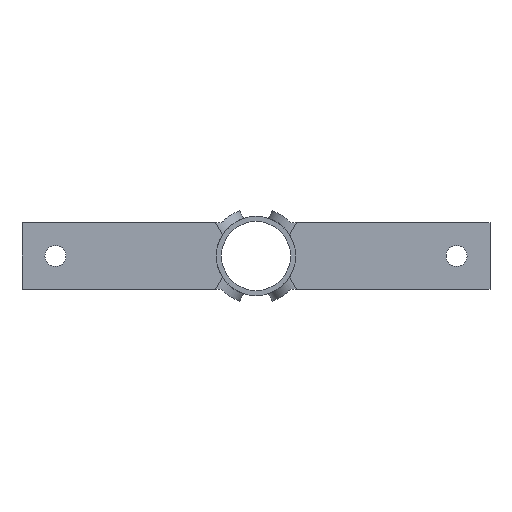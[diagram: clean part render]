
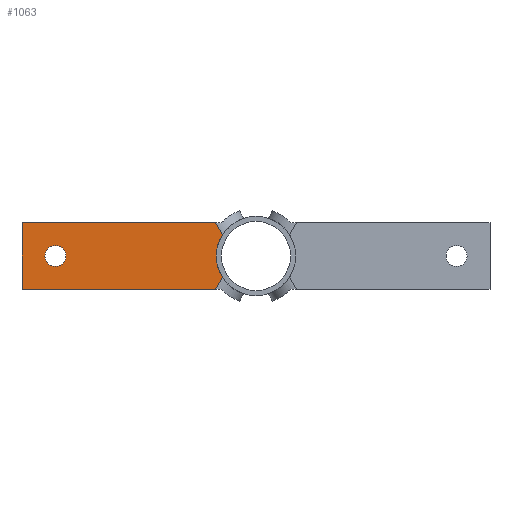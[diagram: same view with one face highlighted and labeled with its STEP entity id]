
A CAD part, front view. The second image highlights one B-rep face of the part: STEP entity #1063.
In plain terms, the highlighted planar face has unit normal (0, -1, 0).
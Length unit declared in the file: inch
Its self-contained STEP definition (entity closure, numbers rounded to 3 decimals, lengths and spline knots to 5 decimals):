
#45=FACE_BOUND('',#188,.T.);
#58=CIRCLE('',#1142,1.1875);
#59=CIRCLE('',#1143,1.1875);
#60=CIRCLE('',#1144,0.3125);
#98=PLANE('',#1141);
#135=FACE_OUTER_BOUND('',#187,.T.);
#187=EDGE_LOOP('',(#736,#737,#738,#739,#740,#741,#742));
#188=EDGE_LOOP('',(#743));
#258=LINE('',#1596,#343);
#265=LINE('',#1647,#350);
#266=LINE('',#1653,#351);
#272=LINE('',#1704,#357);
#279=LINE('',#1764,#364);
#343=VECTOR('',#1248,0.3937);
#350=VECTOR('',#1261,0.3937);
#351=VECTOR('',#1266,0.3937);
#357=VECTOR('',#1276,0.3937);
#364=VECTOR('',#1301,0.3937);
#439=VERTEX_POINT('',#1593);
#440=VERTEX_POINT('',#1595);
#445=VERTEX_POINT('',#1628);
#447=VERTEX_POINT('',#1650);
#448=VERTEX_POINT('',#1652);
#455=VERTEX_POINT('',#1702);
#463=VERTEX_POINT('',#1761);
#464=VERTEX_POINT('',#1765);
#542=EDGE_CURVE('',#440,#439,#258,.T.);
#551=EDGE_CURVE('',#445,#439,#265,.T.);
#553=EDGE_CURVE('',#447,#448,#266,.T.);
#562=EDGE_CURVE('',#447,#455,#272,.T.);
#573=EDGE_CURVE('',#463,#445,#58,.T.);
#574=EDGE_CURVE('',#448,#463,#59,.T.);
#575=EDGE_CURVE('',#455,#440,#279,.T.);
#576=EDGE_CURVE('',#464,#464,#60,.T.);
#736=ORIENTED_EDGE('',*,*,#551,.F.);
#737=ORIENTED_EDGE('',*,*,#573,.F.);
#738=ORIENTED_EDGE('',*,*,#574,.F.);
#739=ORIENTED_EDGE('',*,*,#553,.F.);
#740=ORIENTED_EDGE('',*,*,#562,.T.);
#741=ORIENTED_EDGE('',*,*,#575,.T.);
#742=ORIENTED_EDGE('',*,*,#542,.T.);
#743=ORIENTED_EDGE('',*,*,#576,.T.);
#1063=ADVANCED_FACE('',(#135,#45),#98,.F.);
#1141=AXIS2_PLACEMENT_3D('',#1760,#1295,#1296);
#1142=AXIS2_PLACEMENT_3D('',#1762,#1297,#1298);
#1143=AXIS2_PLACEMENT_3D('',#1763,#1299,#1300);
#1144=AXIS2_PLACEMENT_3D('',#1766,#1302,#1303);
#1248=DIRECTION('',(1.,0.,0.));
#1261=DIRECTION('',(-0.5,0.,-0.866));
#1266=DIRECTION('',(0.5,0.,-0.866));
#1276=DIRECTION('',(-1.,0.,0.));
#1295=DIRECTION('center_axis',(0.,1.,0.));
#1296=DIRECTION('ref_axis',(0.,0.,1.));
#1297=DIRECTION('center_axis',(0.,-1.,0.));
#1298=DIRECTION('ref_axis',(1.,0.,0.));
#1299=DIRECTION('center_axis',(0.,-1.,0.));
#1300=DIRECTION('ref_axis',(1.,0.,0.));
#1301=DIRECTION('',(0.,0.,-1.));
#1302=DIRECTION('center_axis',(0.,1.,0.));
#1303=DIRECTION('ref_axis',(-1.,0.,0.));
#1593=CARTESIAN_POINT('',(-1.21556,4.,-1.));
#1595=CARTESIAN_POINT('',(-7.,4.,-1.));
#1596=CARTESIAN_POINT('',(-7.,4.,-1.));
#1628=CARTESIAN_POINT('',(-1.00417,4.,-0.63387));
#1647=CARTESIAN_POINT('',(-0.63782,4.,0.00068));
#1650=CARTESIAN_POINT('',(-1.21556,4.,1.));
#1652=CARTESIAN_POINT('',(-1.00417,4.,0.63387));
#1653=CARTESIAN_POINT('',(-0.96388,4.,0.56408));
#1702=CARTESIAN_POINT('',(-7.,4.,1.));
#1704=CARTESIAN_POINT('',(7.,4.,1.));
#1760=CARTESIAN_POINT('Origin',(0.,4.,0.9));
#1761=CARTESIAN_POINT('',(-1.1875,4.,0.));
#1762=CARTESIAN_POINT('Origin',(0.,4.,0.));
#1763=CARTESIAN_POINT('Origin',(0.,4.,0.));
#1764=CARTESIAN_POINT('',(-7.,4.,1.));
#1765=CARTESIAN_POINT('',(-5.6875,4.,0.));
#1766=CARTESIAN_POINT('Origin',(-6.,4.,0.));
